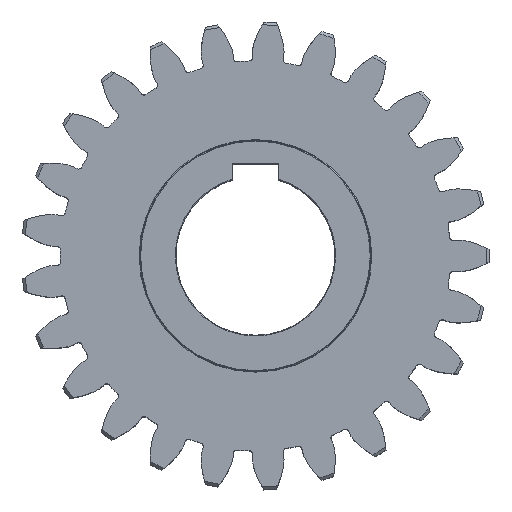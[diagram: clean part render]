
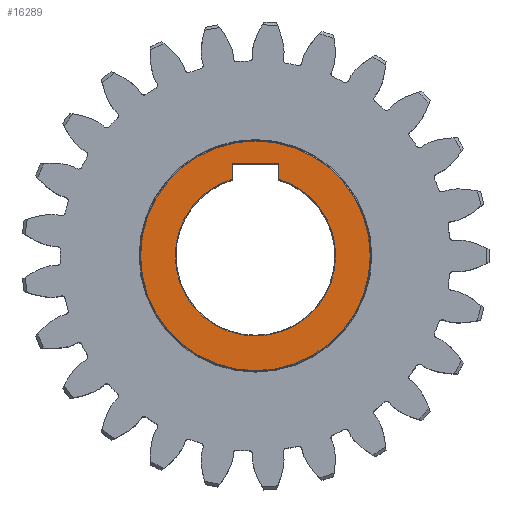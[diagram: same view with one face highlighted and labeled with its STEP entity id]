
A CAD part, top view. The second image highlights one B-rep face of the part: STEP entity #16289.
In plain terms, the highlighted planar face has unit normal (0, 0, 1).
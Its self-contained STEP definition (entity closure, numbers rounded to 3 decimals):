
#75 = CARTESIAN_POINT ( 'NONE',  ( 8., 23.2, 35. ) ) ;
#152 = LINE ( 'NONE', #8175, #7176 ) ;
#316 = DIRECTION ( 'NONE',  ( 1., 0., 0. ) ) ;
#319 = CARTESIAN_POINT ( 'NONE',  ( 8., 31.8, 35. ) ) ;
#396 = CARTESIAN_POINT ( 'NONE',  ( -8., 26.572, 35. ) ) ;
#485 = ORIENTED_EDGE ( 'NONE', *, *, #5899, .T. ) ;
#504 = CARTESIAN_POINT ( 'NONE',  ( 39.75, 0., 35. ) ) ;
#863 = AXIS2_PLACEMENT_3D ( 'NONE', #11871, #14650, #3949 ) ;
#1297 = LINE ( 'NONE', #75, #10175 ) ;
#1457 = VERTEX_POINT ( 'NONE', #2747 ) ;
#1829 = CARTESIAN_POINT ( 'NONE',  ( -8., 31.8, 35. ) ) ;
#1904 = EDGE_CURVE ( 'NONE', #12029, #14323, #1297, .T. ) ;
#2057 = ORIENTED_EDGE ( 'NONE', *, *, #2668, .T. ) ;
#2180 = DIRECTION ( 'NONE',  ( 0., 0., 1. ) ) ;
#2375 = CARTESIAN_POINT ( 'NONE',  ( -39.75, 0., 35. ) ) ;
#2555 = AXIS2_PLACEMENT_3D ( 'NONE', #14110, #2180, #6463 ) ;
#2564 = EDGE_CURVE ( 'NONE', #14323, #1457, #12730, .T. ) ;
#2668 = EDGE_CURVE ( 'NONE', #15187, #2815, #8534, .T. ) ;
#2747 = CARTESIAN_POINT ( 'NONE',  ( 27.75, 0., 35. ) ) ;
#2815 = VERTEX_POINT ( 'NONE', #396 ) ;
#2979 = CARTESIAN_POINT ( 'NONE',  ( 8., 26.572, 35. ) ) ;
#3298 = EDGE_CURVE ( 'NONE', #4831, #10087, #16023, .T. ) ;
#3402 = EDGE_CURVE ( 'NONE', #1457, #15187, #13523, .T. ) ;
#3514 = DIRECTION ( 'NONE',  ( 1., 0., 0. ) ) ;
#3842 = VERTEX_POINT ( 'NONE', #1829 ) ;
#3949 = DIRECTION ( 'NONE',  ( 1., 0., 0. ) ) ;
#4658 = CARTESIAN_POINT ( 'NONE',  ( 0., 0., 35. ) ) ;
#4831 = VERTEX_POINT ( 'NONE', #504 ) ;
#4907 = DIRECTION ( 'NONE',  ( 1., 0., 0. ) ) ;
#5729 = CARTESIAN_POINT ( 'NONE',  ( 0., 0., 35. ) ) ;
#5732 = DIRECTION ( 'NONE',  ( 1., 0., 0. ) ) ;
#5899 = EDGE_CURVE ( 'NONE', #2815, #3842, #152, .T. ) ;
#6139 = CARTESIAN_POINT ( 'NONE',  ( 0., 0., 35. ) ) ;
#6463 = DIRECTION ( 'NONE',  ( 1., 0., 0. ) ) ;
#7176 = VECTOR ( 'NONE', #17158, 1000. ) ;
#8175 = CARTESIAN_POINT ( 'NONE',  ( -8., 23.2, 35. ) ) ;
#8238 = AXIS2_PLACEMENT_3D ( 'NONE', #6139, #8734, #3514 ) ;
#8351 = ORIENTED_EDGE ( 'NONE', *, *, #3402, .T. ) ;
#8418 = LINE ( 'NONE', #319, #14754 ) ;
#8534 = CIRCLE ( 'NONE', #11571, 27.75 ) ;
#8653 = EDGE_LOOP ( 'NONE', ( #9843, #14070 ) ) ;
#8734 = DIRECTION ( 'NONE',  ( 0., 0., -1. ) ) ;
#9307 = CARTESIAN_POINT ( 'NONE',  ( 8., 31.8, 35. ) ) ;
#9820 = DIRECTION ( 'NONE',  ( 0., 0., -1. ) ) ;
#9843 = ORIENTED_EDGE ( 'NONE', *, *, #15492, .T. ) ;
#10087 = VERTEX_POINT ( 'NONE', #2375 ) ;
#10175 = VECTOR ( 'NONE', #17164, 1000. ) ;
#11214 = EDGE_LOOP ( 'NONE', ( #12457, #15105, #8351, #2057, #485, #14428 ) ) ;
#11420 = FACE_OUTER_BOUND ( 'NONE', #8653, .T. ) ;
#11571 = AXIS2_PLACEMENT_3D ( 'NONE', #5729, #9820, #316 ) ;
#11871 = CARTESIAN_POINT ( 'NONE',  ( 0., 0., 35. ) ) ;
#12009 = DIRECTION ( 'NONE',  ( 0., 0., -1. ) ) ;
#12029 = VERTEX_POINT ( 'NONE', #9307 ) ;
#12096 = DIRECTION ( 'NONE',  ( 1., 0., 0. ) ) ;
#12136 = AXIS2_PLACEMENT_3D ( 'NONE', #4658, #15527, #4907 ) ;
#12457 = ORIENTED_EDGE ( 'NONE', *, *, #1904, .T. ) ;
#12568 = CIRCLE ( 'NONE', #863, 39.75 ) ;
#12730 = CIRCLE ( 'NONE', #14942, 27.75 ) ;
#12761 = EDGE_CURVE ( 'NONE', #3842, #12029, #8418, .T. ) ;
#13523 = CIRCLE ( 'NONE', #8238, 27.75 ) ;
#14070 = ORIENTED_EDGE ( 'NONE', *, *, #3298, .T. ) ;
#14110 = CARTESIAN_POINT ( 'NONE',  ( 0., 0., 35. ) ) ;
#14323 = VERTEX_POINT ( 'NONE', #2979 ) ;
#14428 = ORIENTED_EDGE ( 'NONE', *, *, #12761, .T. ) ;
#14650 = DIRECTION ( 'NONE',  ( 0., 0., 1. ) ) ;
#14702 = CARTESIAN_POINT ( 'NONE',  ( 0., 0., 35. ) ) ;
#14754 = VECTOR ( 'NONE', #5732, 1000. ) ;
#14942 = AXIS2_PLACEMENT_3D ( 'NONE', #14702, #12009, #12096 ) ;
#15105 = ORIENTED_EDGE ( 'NONE', *, *, #2564, .T. ) ;
#15187 = VERTEX_POINT ( 'NONE', #16731 ) ;
#15414 = FACE_BOUND ( 'NONE', #11214, .T. ) ;
#15492 = EDGE_CURVE ( 'NONE', #10087, #4831, #12568, .T. ) ;
#15527 = DIRECTION ( 'NONE',  ( 0., 0., 1. ) ) ;
#16023 = CIRCLE ( 'NONE', #12136, 39.75 ) ;
#16289 = ADVANCED_FACE ( 'NONE', ( #11420, #15414 ), #16812, .T. ) ;
#16731 = CARTESIAN_POINT ( 'NONE',  ( -27.75, 0., 35. ) ) ;
#16812 = PLANE ( 'NONE',  #2555 ) ;
#17158 = DIRECTION ( 'NONE',  ( 0., 1., 0. ) ) ;
#17164 = DIRECTION ( 'NONE',  ( 0., -1., 0. ) ) ;
